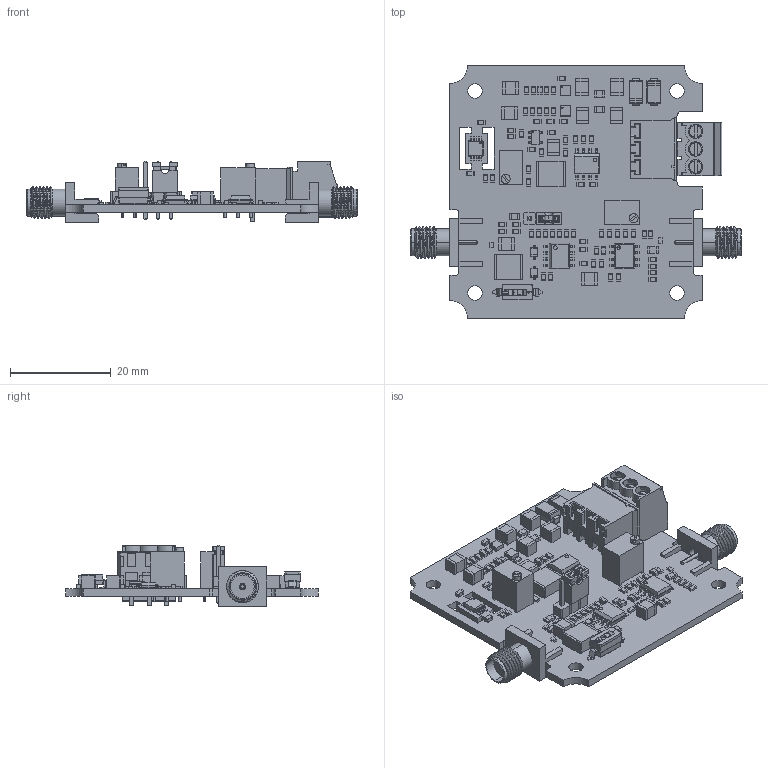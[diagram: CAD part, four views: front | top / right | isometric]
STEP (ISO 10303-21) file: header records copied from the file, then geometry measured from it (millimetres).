
FILE_DESCRIPTION(('Open CASCADE Model'),'2;1');
FILE_NAME('Open CASCADE Shape Model','2022-03-15T12:28:39',('Author'),( 'Open CASCADE'),'Open CASCADE STEP processor 6.8','Open CASCADE 6.8' ,'Unknown');
FILE_SCHEMA(('AUTOMOTIVE_DESIGN { 1 0 10303 214 1 1 1 1 }'));
Length unit declared in the file: millimetre
Products named in the file (187): AMP200
Assembly tree (441 placements, depth 4):
  AMP200
    AMP200
      AMP200
    AMP200
      AMP200
      AMP200
      AMP200
    AMP200
      AMP200
      AMP200
      AMP200
      AMP200
      AMP200
      AMP200
      AMP200
    AMP200
      AMP200
      AMP200
      AMP200
    AMP200
      AMP200
      AMP200
      AMP200
    AMP200
      AMP200
      AMP200
      AMP200
    AMP200
      AMP200
      AMP200
      AMP200
    AMP200
      AMP200
      AMP200
      AMP200
    AMP200
      AMP200
      AMP200
      AMP200
    AMP200
      AMP200
      AMP200
      AMP200
    AMP200
      AMP200
      AMP200
      AMP200
    AMP200
      AMP200
      AMP200
      AMP200
    AMP200
      AMP200
      AMP200
      AMP200
    AMP200
      AMP200
      AMP200
      AMP200
    AMP200
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Bounding box: 65.4 x 50 x 12.14 mm (x, y, z)
Volume: 6808.5 mm3; surface area: 12040.8 mm2
Topology: 338 solids, 338 shells, 3514 faces, 8052 edges, 5264 vertices
Faces by surface type: plane 2902, cylinder 517, cone 38, sphere 24, bspline 18, torus 15
Full cylindrical faces by diameter (mm): 0.25 x5, 0.65 x4, 0.75 x4, 0.9 x9, 1.2 x6, 2 x3, 2.8 x3, 2.85 x4, 2.9 x6
Entity records: 65401 total; most frequent: CARTESIAN_POINT 11109, DIRECTION 9340, ORIENTED_EDGE 8758, EDGE_CURVE 4379, LINE 3336, VECTOR 3336, AXIS2_PLACEMENT_3D 3002, VERTEX_POINT 2826
